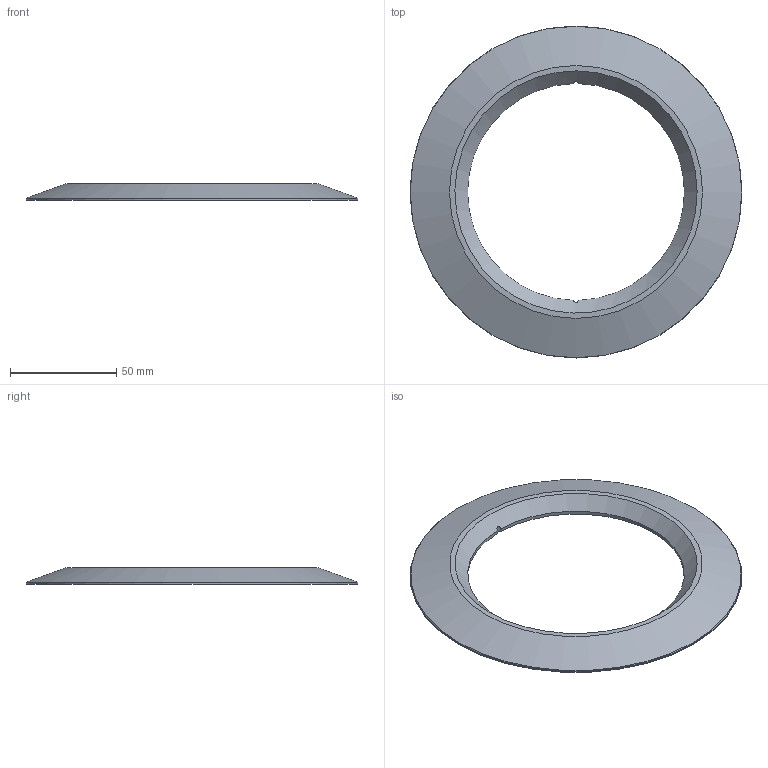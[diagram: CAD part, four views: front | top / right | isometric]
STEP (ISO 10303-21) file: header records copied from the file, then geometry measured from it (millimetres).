
FILE_DESCRIPTION(/* description */ ('Alibre Inc.'),/* implementation_level */ '2;1');
FILE_NAME(/* name */ 'export-EB5C7CEF-D241-4238-A652-6EDFA3AC27A9',/* time_stamp */ '2026-02-03T10:46:07+00:00',/* author */ (''),/* organization */ (''),/* preprocessor_version */ 'ST-DEVELOPER v17',/* originating_system */ 'Alibre',/* authorisation */ '');
FILE_SCHEMA (('CONFIG_CONTROL_DESIGN'));
Length unit declared in the file: millimetre
Bounding box: 156.5 x 156.5 x 7.6 mm (x, y, z)
Volume: 49228.6 mm3; surface area: 24299.2 mm2
Topology: 1 solids, 1 shells, 10 faces, 22 edges, 14 vertices
Faces by surface type: cylinder 5, cone 3, plane 2
Full cylindrical faces by diameter (mm): 156.5 x1
Entity records: 362 total; most frequent: CARTESIAN_POINT 79, DIRECTION 38, ORIENTED_EDGE 34, AXIS2_PLACEMENT_3D 18, EDGE_CURVE 17, EDGE_LOOP 16, FACE_BOUND 16, VERTEX_POINT 13
